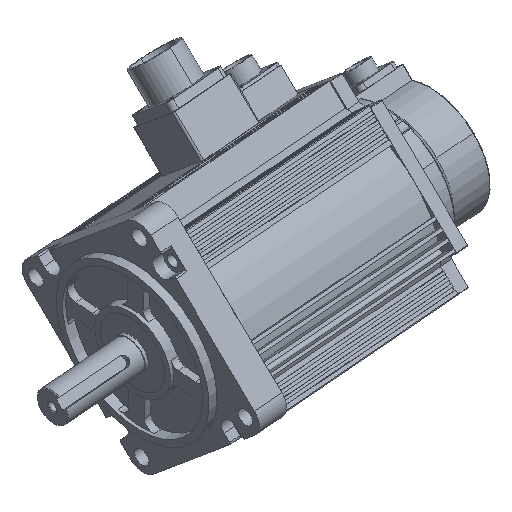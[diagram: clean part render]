
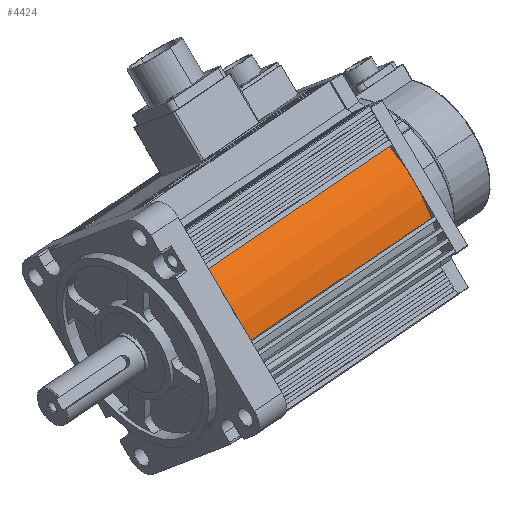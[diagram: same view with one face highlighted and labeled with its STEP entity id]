
A CAD part, isometric view. The second image highlights one B-rep face of the part: STEP entity #4424.
In plain terms, the highlighted cylindrical face has radius 55 mm (diameter 110 mm), a partial arc.
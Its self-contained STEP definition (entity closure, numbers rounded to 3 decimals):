
#312 = DIRECTION ( 'NONE',  ( 1., 0., 0. ) ) ;
#365 = VERTEX_POINT ( 'NONE', #16037 ) ;
#1459 = CARTESIAN_POINT ( 'NONE',  ( 51.795, 18.5, 0. ) ) ;
#1846 = EDGE_CURVE ( 'NONE', #365, #6431, #18621, .T. ) ;
#3837 = LINE ( 'NONE', #20488, #14760 ) ;
#4424 = ADVANCED_FACE ( 'NONE', ( #20404 ), #14570, .T. ) ;
#5482 = AXIS2_PLACEMENT_3D ( 'NONE', #20557, #11818, #27180 ) ;
#5768 = DIRECTION ( 'NONE',  ( 0., 0., 1. ) ) ;
#6431 = VERTEX_POINT ( 'NONE', #1459 ) ;
#7180 = AXIS2_PLACEMENT_3D ( 'NONE', #26684, #7200, #312 ) ;
#7200 = DIRECTION ( 'NONE',  ( 0., 0., 1. ) ) ;
#8814 = CARTESIAN_POINT ( 'NONE',  ( 51.795, -18.5, 0. ) ) ;
#8858 = EDGE_LOOP ( 'NONE', ( #22516, #25279, #20260, #13108 ) ) ;
#9467 = EDGE_CURVE ( 'NONE', #19336, #6431, #11679, .T. ) ;
#11605 = DIRECTION ( 'NONE',  ( 1., 0., 0. ) ) ;
#11679 = CIRCLE ( 'NONE', #7180, 55. ) ;
#11818 = DIRECTION ( 'NONE',  ( 0., 0., -1. ) ) ;
#13108 = ORIENTED_EDGE ( 'NONE', *, *, #16393, .T. ) ;
#14482 = CARTESIAN_POINT ( 'NONE',  ( 0., 0., 114. ) ) ;
#14570 = CYLINDRICAL_SURFACE ( 'NONE', #5482, 55. ) ;
#14760 = VECTOR ( 'NONE', #22776, 1000. ) ;
#14782 = DIRECTION ( 'NONE',  ( 0., 0., -1. ) ) ;
#16037 = CARTESIAN_POINT ( 'NONE',  ( 51.795, 18.5, 114. ) ) ;
#16393 = EDGE_CURVE ( 'NONE', #26720, #19336, #3837, .T. ) ;
#18621 = LINE ( 'NONE', #19371, #27893 ) ;
#19336 = VERTEX_POINT ( 'NONE', #8814 ) ;
#19371 = CARTESIAN_POINT ( 'NONE',  ( 51.795, 18.5, 114. ) ) ;
#20260 = ORIENTED_EDGE ( 'NONE', *, *, #25538, .F. ) ;
#20404 = FACE_OUTER_BOUND ( 'NONE', #8858, .T. ) ;
#20488 = CARTESIAN_POINT ( 'NONE',  ( 51.795, -18.5, 114. ) ) ;
#20557 = CARTESIAN_POINT ( 'NONE',  ( 0., 0., 114. ) ) ;
#22516 = ORIENTED_EDGE ( 'NONE', *, *, #9467, .T. ) ;
#22776 = DIRECTION ( 'NONE',  ( 0., 0., -1. ) ) ;
#25279 = ORIENTED_EDGE ( 'NONE', *, *, #1846, .F. ) ;
#25538 = EDGE_CURVE ( 'NONE', #26720, #365, #28428, .T. ) ;
#26443 = CARTESIAN_POINT ( 'NONE',  ( 51.795, -18.5, 114. ) ) ;
#26684 = CARTESIAN_POINT ( 'NONE',  ( 0., 0., 0. ) ) ;
#26720 = VERTEX_POINT ( 'NONE', #26443 ) ;
#27180 = DIRECTION ( 'NONE',  ( -1., 0., 0. ) ) ;
#27369 = AXIS2_PLACEMENT_3D ( 'NONE', #14482, #5768, #11605 ) ;
#27893 = VECTOR ( 'NONE', #14782, 1000. ) ;
#28428 = CIRCLE ( 'NONE', #27369, 55. ) ;
